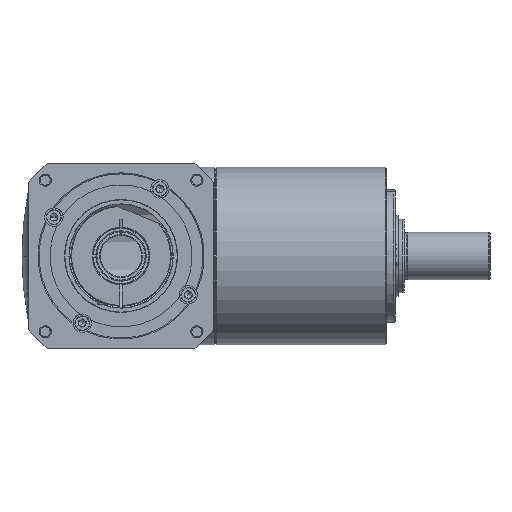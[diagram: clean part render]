
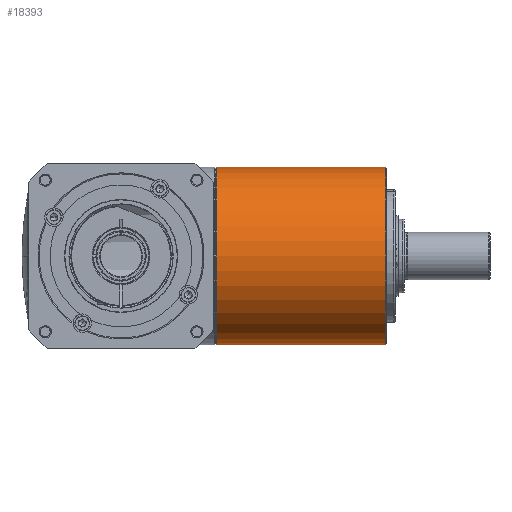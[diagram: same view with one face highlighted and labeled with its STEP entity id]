
A CAD part, front view. The second image highlights one B-rep face of the part: STEP entity #18393.
In plain terms, the highlighted cylindrical face has radius 60 mm (diameter 120 mm), a partial arc.
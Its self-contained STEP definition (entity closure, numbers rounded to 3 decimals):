
#865 = DIRECTION ( 'NONE',  ( 1., 0., 0. ) ) ;
#2591 = DIRECTION ( 'NONE',  ( 1., 0., 0. ) ) ;
#3172 = LINE ( 'NONE', #25014, #27894 ) ;
#3936 = FACE_OUTER_BOUND ( 'NONE', #10110, .T. ) ;
#5705 = CARTESIAN_POINT ( 'NONE',  ( 64.5, 0., 0. ) ) ;
#5880 = EDGE_CURVE ( 'NONE', #6146, #29394, #30012, .T. ) ;
#6146 = VERTEX_POINT ( 'NONE', #11340 ) ;
#7352 = ORIENTED_EDGE ( 'NONE', *, *, #5880, .T. ) ;
#10110 = EDGE_LOOP ( 'NONE', ( #25827, #11358, #36320, #7352 ) ) ;
#10280 = DIRECTION ( 'NONE',  ( 0., 0., -1. ) ) ;
#11330 = EDGE_CURVE ( 'NONE', #33743, #22054, #19623, .T. ) ;
#11340 = CARTESIAN_POINT ( 'NONE',  ( 179., 0., -60. ) ) ;
#11358 = ORIENTED_EDGE ( 'NONE', *, *, #11330, .T. ) ;
#12997 = AXIS2_PLACEMENT_3D ( 'NONE', #21932, #25415, #25222 ) ;
#13428 = LINE ( 'NONE', #31902, #32692 ) ;
#15286 = DIRECTION ( 'NONE',  ( 1., 0., 0. ) ) ;
#16249 = CARTESIAN_POINT ( 'NONE',  ( 116.368, 0., 0. ) ) ;
#18393 = ADVANCED_FACE ( 'NONE', ( #3936 ), #29199, .T. ) ;
#19009 = EDGE_CURVE ( 'NONE', #33743, #29394, #3172, .T. ) ;
#19623 = CIRCLE ( 'NONE', #34014, 60. ) ;
#21142 = EDGE_CURVE ( 'NONE', #22054, #6146, #13428, .T. ) ;
#21932 = CARTESIAN_POINT ( 'NONE',  ( 179., 0., 0. ) ) ;
#22054 = VERTEX_POINT ( 'NONE', #36975 ) ;
#24536 = AXIS2_PLACEMENT_3D ( 'NONE', #16249, #28608, #10280 ) ;
#25014 = CARTESIAN_POINT ( 'NONE',  ( 116.368, 0., 60. ) ) ;
#25222 = DIRECTION ( 'NONE',  ( 0., 0., 1. ) ) ;
#25415 = DIRECTION ( 'NONE',  ( -1., 0., 0. ) ) ;
#25827 = ORIENTED_EDGE ( 'NONE', *, *, #19009, .F. ) ;
#27894 = VECTOR ( 'NONE', #15286, 1000. ) ;
#28608 = DIRECTION ( 'NONE',  ( 1., 0., 0. ) ) ;
#28648 = DIRECTION ( 'NONE',  ( 0., 0., -1. ) ) ;
#29199 = CYLINDRICAL_SURFACE ( 'NONE', #24536, 60. ) ;
#29394 = VERTEX_POINT ( 'NONE', #39133 ) ;
#30012 = CIRCLE ( 'NONE', #12997, 60. ) ;
#31902 = CARTESIAN_POINT ( 'NONE',  ( 116.368, 0., -60. ) ) ;
#32692 = VECTOR ( 'NONE', #865, 1000. ) ;
#33743 = VERTEX_POINT ( 'NONE', #40594 ) ;
#34014 = AXIS2_PLACEMENT_3D ( 'NONE', #5705, #2591, #28648 ) ;
#36320 = ORIENTED_EDGE ( 'NONE', *, *, #21142, .T. ) ;
#36975 = CARTESIAN_POINT ( 'NONE',  ( 64.5, 0., -60. ) ) ;
#39133 = CARTESIAN_POINT ( 'NONE',  ( 179., 0., 60. ) ) ;
#40594 = CARTESIAN_POINT ( 'NONE',  ( 64.5, 0., 60. ) ) ;
